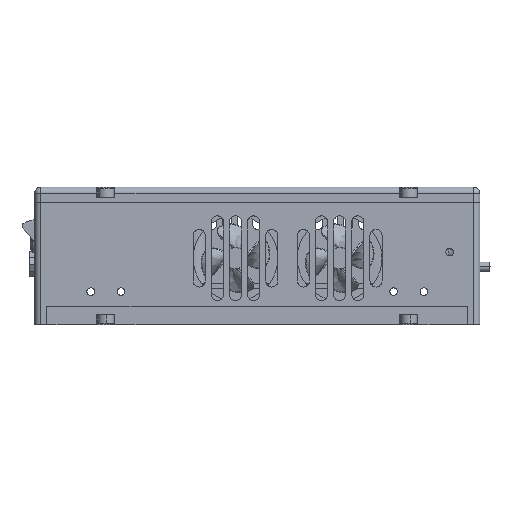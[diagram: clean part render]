
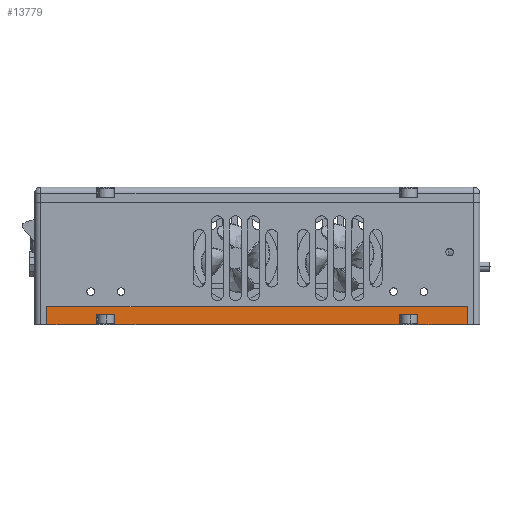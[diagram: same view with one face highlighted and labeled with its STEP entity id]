
A CAD part, left-side view. The second image highlights one B-rep face of the part: STEP entity #13779.
In plain terms, the highlighted planar face has unit normal (-1, 0, 0).
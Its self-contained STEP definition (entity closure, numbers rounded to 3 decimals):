
#9 = VECTOR ( 'NONE', #3085, 1000. ) ;
#716 = LINE ( 'NONE', #54427, #9 ) ;
#2020 = CARTESIAN_POINT ( 'NONE',  ( -83.28, -49.464, 163.4 ) ) ;
#2201 = EDGE_CURVE ( 'NONE', #53792, #30574, #9556, .T. ) ;
#2274 = CARTESIAN_POINT ( 'NONE',  ( -83.28, 73.036, 160. ) ) ;
#2536 = FACE_OUTER_BOUND ( 'NONE', #9833, .T. ) ;
#2760 = CARTESIAN_POINT ( 'NONE',  ( -83.28, 73.036, 160. ) ) ;
#3085 = DIRECTION ( 'NONE',  ( 0., 0., -1. ) ) ;
#3616 = DIRECTION ( 'NONE',  ( 0., 1., 0. ) ) ;
#4471 = EDGE_CURVE ( 'NONE', #8152, #30574, #45286, .T. ) ;
#4876 = VERTEX_POINT ( 'NONE', #12840 ) ;
#5882 = VECTOR ( 'NONE', #19592, 1000. ) ;
#6974 = CARTESIAN_POINT ( 'NONE',  ( -83.28, -49.464, 160. ) ) ;
#7633 = VERTEX_POINT ( 'NONE', #37578 ) ;
#7887 = VECTOR ( 'NONE', #35008, 1000. ) ;
#8152 = VERTEX_POINT ( 'NONE', #33257 ) ;
#9097 = AXIS2_PLACEMENT_3D ( 'NONE', #48978, #32049, #3616 ) ;
#9104 = DIRECTION ( 'NONE',  ( 0., -1., 0. ) ) ;
#9269 = CARTESIAN_POINT ( 'NONE',  ( -83.28, -65.964, 160. ) ) ;
#9556 = LINE ( 'NONE', #49573, #45794 ) ;
#9833 = EDGE_LOOP ( 'NONE', ( #52804, #17633, #10487, #22655, #12879, #38471, #37133, #34824, #41391, #29761, #19998, #21600 ) ) ;
#10487 = ORIENTED_EDGE ( 'NONE', *, *, #33967, .T. ) ;
#12840 = CARTESIAN_POINT ( 'NONE',  ( -83.28, 50.536, 163.4 ) ) ;
#12879 = ORIENTED_EDGE ( 'NONE', *, *, #22733, .F. ) ;
#13388 = VECTOR ( 'NONE', #20382, 1000. ) ;
#13779 = ADVANCED_FACE ( 'NONE', ( #2536 ), #52886, .F. ) ;
#14895 = CARTESIAN_POINT ( 'NONE',  ( -83.28, 73.036, 166. ) ) ;
#15157 = VERTEX_POINT ( 'NONE', #36993 ) ;
#17097 = CARTESIAN_POINT ( 'NONE',  ( -83.28, 73.036, 166. ) ) ;
#17633 = ORIENTED_EDGE ( 'NONE', *, *, #17968, .T. ) ;
#17968 = EDGE_CURVE ( 'NONE', #8152, #4876, #18921, .T. ) ;
#18373 = CARTESIAN_POINT ( 'NONE',  ( -83.28, -43.464, 163.4 ) ) ;
#18393 = VECTOR ( 'NONE', #36671, 1000. ) ;
#18921 = LINE ( 'NONE', #33500, #44426 ) ;
#19123 = DIRECTION ( 'NONE',  ( 0., 0., -1. ) ) ;
#19477 = DIRECTION ( 'NONE',  ( 0., 0., -1. ) ) ;
#19592 = DIRECTION ( 'NONE',  ( 0., 0., -1. ) ) ;
#19998 = ORIENTED_EDGE ( 'NONE', *, *, #47425, .T. ) ;
#20382 = DIRECTION ( 'NONE',  ( 0., 1., 0. ) ) ;
#20854 = VERTEX_POINT ( 'NONE', #9269 ) ;
#20876 = VECTOR ( 'NONE', #19477, 1000. ) ;
#21149 = VERTEX_POINT ( 'NONE', #14895 ) ;
#21442 = EDGE_CURVE ( 'NONE', #21149, #15157, #51580, .T. ) ;
#21600 = ORIENTED_EDGE ( 'NONE', *, *, #2201, .T. ) ;
#22077 = CARTESIAN_POINT ( 'NONE',  ( -83.28, 73.036, 160. ) ) ;
#22655 = ORIENTED_EDGE ( 'NONE', *, *, #52232, .T. ) ;
#22733 = EDGE_CURVE ( 'NONE', #43947, #53560, #48539, .T. ) ;
#28263 = CARTESIAN_POINT ( 'NONE',  ( -83.28, 56.536, 160. ) ) ;
#28740 = VECTOR ( 'NONE', #34533, 1000. ) ;
#29761 = ORIENTED_EDGE ( 'NONE', *, *, #21442, .F. ) ;
#30574 = VERTEX_POINT ( 'NONE', #28263 ) ;
#30746 = CARTESIAN_POINT ( 'NONE',  ( -83.28, -43.464, 160. ) ) ;
#31461 = CARTESIAN_POINT ( 'NONE',  ( -83.28, 50.536, 163.4 ) ) ;
#32049 = DIRECTION ( 'NONE',  ( 1., 0., 0. ) ) ;
#32273 = LINE ( 'NONE', #45193, #20876 ) ;
#33257 = CARTESIAN_POINT ( 'NONE',  ( -83.28, 56.536, 163.4 ) ) ;
#33500 = CARTESIAN_POINT ( 'NONE',  ( -83.28, 56.536, 163.4 ) ) ;
#33619 = VECTOR ( 'NONE', #45298, 1000. ) ;
#33967 = EDGE_CURVE ( 'NONE', #4876, #38416, #52954, .T. ) ;
#34533 = DIRECTION ( 'NONE',  ( 0., -1., 0. ) ) ;
#34824 = ORIENTED_EDGE ( 'NONE', *, *, #40674, .T. ) ;
#35008 = DIRECTION ( 'NONE',  ( 0., -1., 0. ) ) ;
#35195 = EDGE_CURVE ( 'NONE', #7633, #50673, #38082, .T. ) ;
#35746 = CARTESIAN_POINT ( 'NONE',  ( -83.28, 56.536, 163.4 ) ) ;
#36198 = LINE ( 'NONE', #46075, #13388 ) ;
#36671 = DIRECTION ( 'NONE',  ( 0., 0., -1. ) ) ;
#36993 = CARTESIAN_POINT ( 'NONE',  ( -83.28, -65.964, 166. ) ) ;
#37133 = ORIENTED_EDGE ( 'NONE', *, *, #35195, .T. ) ;
#37578 = CARTESIAN_POINT ( 'NONE',  ( -83.28, -49.464, 163.4 ) ) ;
#38082 = LINE ( 'NONE', #2020, #5882 ) ;
#38416 = VERTEX_POINT ( 'NONE', #44353 ) ;
#38471 = ORIENTED_EDGE ( 'NONE', *, *, #49085, .F. ) ;
#40674 = EDGE_CURVE ( 'NONE', #50673, #20854, #50870, .T. ) ;
#41391 = ORIENTED_EDGE ( 'NONE', *, *, #48403, .F. ) ;
#43947 = VERTEX_POINT ( 'NONE', #51298 ) ;
#44353 = CARTESIAN_POINT ( 'NONE',  ( -83.28, 50.536, 160. ) ) ;
#44426 = VECTOR ( 'NONE', #9104, 1000. ) ;
#45193 = CARTESIAN_POINT ( 'NONE',  ( -83.28, 73.036, 166. ) ) ;
#45286 = LINE ( 'NONE', #35746, #18393 ) ;
#45298 = DIRECTION ( 'NONE',  ( 0., -1., 0. ) ) ;
#45794 = VECTOR ( 'NONE', #54399, 1000. ) ;
#46075 = CARTESIAN_POINT ( 'NONE',  ( -83.28, -49.464, 163.4 ) ) ;
#46403 = LINE ( 'NONE', #2760, #33619 ) ;
#47425 = EDGE_CURVE ( 'NONE', #21149, #53792, #32273, .T. ) ;
#48403 = EDGE_CURVE ( 'NONE', #15157, #20854, #716, .T. ) ;
#48539 = LINE ( 'NONE', #18373, #52561 ) ;
#48978 = CARTESIAN_POINT ( 'NONE',  ( -83.28, 73.036, 166. ) ) ;
#49085 = EDGE_CURVE ( 'NONE', #7633, #43947, #36198, .T. ) ;
#49573 = CARTESIAN_POINT ( 'NONE',  ( -83.28, 73.036, 160. ) ) ;
#50673 = VERTEX_POINT ( 'NONE', #6974 ) ;
#50870 = LINE ( 'NONE', #22077, #7887 ) ;
#51298 = CARTESIAN_POINT ( 'NONE',  ( -83.28, -43.464, 163.4 ) ) ;
#51580 = LINE ( 'NONE', #17097, #28740 ) ;
#51638 = VECTOR ( 'NONE', #53601, 1000. ) ;
#52232 = EDGE_CURVE ( 'NONE', #38416, #53560, #46403, .T. ) ;
#52561 = VECTOR ( 'NONE', #19123, 1000. ) ;
#52804 = ORIENTED_EDGE ( 'NONE', *, *, #4471, .F. ) ;
#52886 = PLANE ( 'NONE',  #9097 ) ;
#52954 = LINE ( 'NONE', #31461, #51638 ) ;
#53560 = VERTEX_POINT ( 'NONE', #30746 ) ;
#53601 = DIRECTION ( 'NONE',  ( 0., 0., -1. ) ) ;
#53792 = VERTEX_POINT ( 'NONE', #2274 ) ;
#54399 = DIRECTION ( 'NONE',  ( 0., -1., 0. ) ) ;
#54427 = CARTESIAN_POINT ( 'NONE',  ( -83.28, -65.964, 166. ) ) ;
